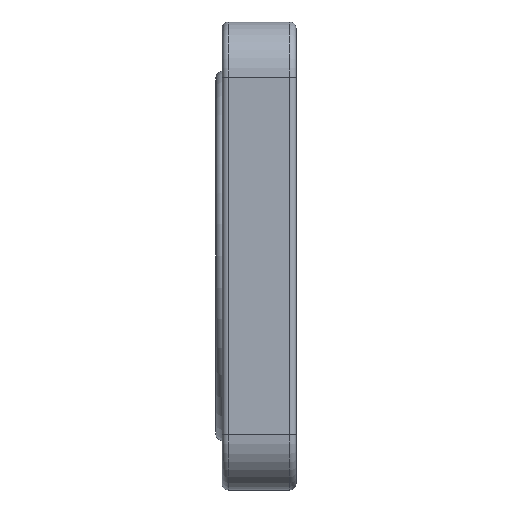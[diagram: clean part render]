
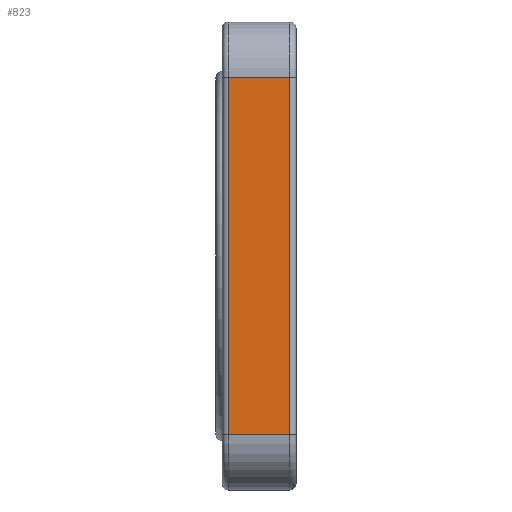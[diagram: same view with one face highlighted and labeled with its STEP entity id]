
A CAD part, left-side view. The second image highlights one B-rep face of the part: STEP entity #823.
In plain terms, the highlighted planar face has unit normal (-1, 0, 0).
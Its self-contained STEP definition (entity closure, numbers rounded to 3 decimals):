
#60 = VERTEX_POINT ( 'NONE', #62 ) ;
#62 = CARTESIAN_POINT ( 'NONE',  ( -76., 22., 58. ) ) ;
#82 = DIRECTION ( 'NONE',  ( 1., 0., 0. ) ) ;
#88 = EDGE_CURVE ( 'NONE', #624, #290, #1018, .T. ) ;
#181 = LINE ( 'NONE', #1233, #272 ) ;
#198 = EDGE_CURVE ( 'NONE', #543, #624, #927, .T. ) ;
#202 = ORIENTED_EDGE ( 'NONE', *, *, #88, .T. ) ;
#224 = DIRECTION ( 'NONE',  ( 0., -1., 0. ) ) ;
#234 = DIRECTION ( 'NONE',  ( 0., -1., 0. ) ) ;
#267 = VECTOR ( 'NONE', #386, 1000. ) ;
#272 = VECTOR ( 'NONE', #224, 1000. ) ;
#290 = VERTEX_POINT ( 'NONE', #806 ) ;
#293 = ORIENTED_EDGE ( 'NONE', *, *, #198, .T. ) ;
#321 = EDGE_CURVE ( 'NONE', #60, #543, #895, .T. ) ;
#386 = DIRECTION ( 'NONE',  ( 0., 0., -1. ) ) ;
#401 = ORIENTED_EDGE ( 'NONE', *, *, #414, .F. ) ;
#403 = EDGE_LOOP ( 'NONE', ( #293, #202, #401, #563 ) ) ;
#414 = EDGE_CURVE ( 'NONE', #60, #290, #181, .T. ) ;
#543 = VERTEX_POINT ( 'NONE', #1032 ) ;
#563 = ORIENTED_EDGE ( 'NONE', *, *, #321, .T. ) ;
#593 = DIRECTION ( 'NONE',  ( 0., 0., 1. ) ) ;
#624 = VERTEX_POINT ( 'NONE', #881 ) ;
#806 = CARTESIAN_POINT ( 'NONE',  ( -76., 2., 58. ) ) ;
#816 = VECTOR ( 'NONE', #593, 1000. ) ;
#820 = VECTOR ( 'NONE', #234, 1000. ) ;
#823 = ADVANCED_FACE ( 'NONE', ( #940 ), #1092, .F. ) ;
#870 = CARTESIAN_POINT ( 'NONE',  ( -76., 24., -58. ) ) ;
#881 = CARTESIAN_POINT ( 'NONE',  ( -76., 2., -58. ) ) ;
#887 = CARTESIAN_POINT ( 'NONE',  ( -76., 2., 58. ) ) ;
#895 = LINE ( 'NONE', #1181, #267 ) ;
#927 = LINE ( 'NONE', #870, #820 ) ;
#940 = FACE_OUTER_BOUND ( 'NONE', #403, .T. ) ;
#952 = DIRECTION ( 'NONE',  ( 0., 0., -1. ) ) ;
#969 = CARTESIAN_POINT ( 'NONE',  ( -76., 24., -58. ) ) ;
#975 = AXIS2_PLACEMENT_3D ( 'NONE', #969, #82, #952 ) ;
#1018 = LINE ( 'NONE', #887, #816 ) ;
#1032 = CARTESIAN_POINT ( 'NONE',  ( -76., 22., -58. ) ) ;
#1092 = PLANE ( 'NONE',  #975 ) ;
#1181 = CARTESIAN_POINT ( 'NONE',  ( -76., 22., -58. ) ) ;
#1233 = CARTESIAN_POINT ( 'NONE',  ( -76., 24., 58. ) ) ;
